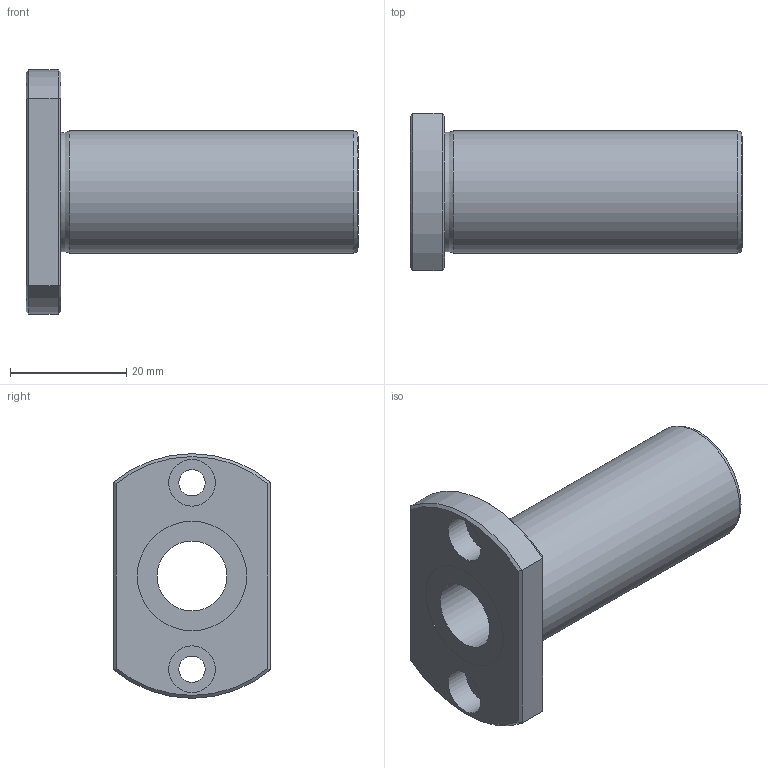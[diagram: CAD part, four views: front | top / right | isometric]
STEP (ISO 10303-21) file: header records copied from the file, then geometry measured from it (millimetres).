
FILE_DESCRIPTION((''),'2;1');
FILE_NAME('D:\製品 (図面)\カタログ用3D\リニアベアリング関連\STEP形式\LFDT\LFDT12.stp','2010-06-03T09:44:11',('Tsuchiya'),(''),'Autodesk Inventor 10','Autodesk Inventor 10','');
FILE_SCHEMA(('AUTOMOTIVE_DESIGN { 1 0 10303 214 1 1 1 1 }'));
Length unit declared in the file: millimetre
Products named in the file (1): LFDT12
Bounding box: 57 x 27 x 42 mm (x, y, z)
Volume: 16940.9 mm3; surface area: 8256.6 mm2
Topology: 1 solids, 1 shells, 29 faces, 56 edges, 34 vertices
Faces by surface type: plane 13, cylinder 10, cone 4, torus 1, bspline 1
Full cylindrical faces by diameter (mm): 4.5 x2, 8 x2, 12 x1, 18.8 x2, 21 x1
Entity records: 787 total; most frequent: CARTESIAN_POINT 196, DIRECTION 122, ORIENTED_EDGE 92, AXIS2_PLACEMENT_3D 55, EDGE_LOOP 50, EDGE_CURVE 46, VERTEX_POINT 34, FACE_OUTER_BOUND 29
